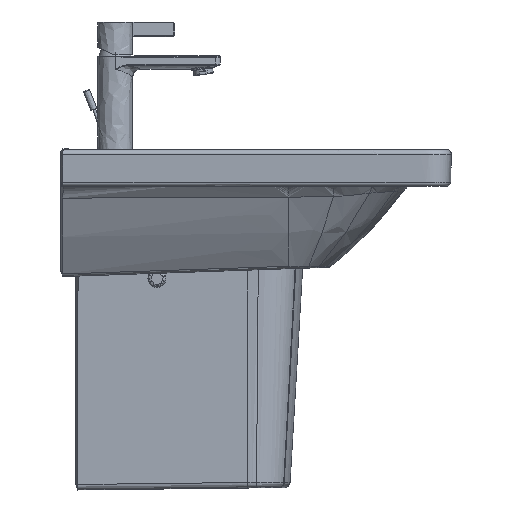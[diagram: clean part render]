
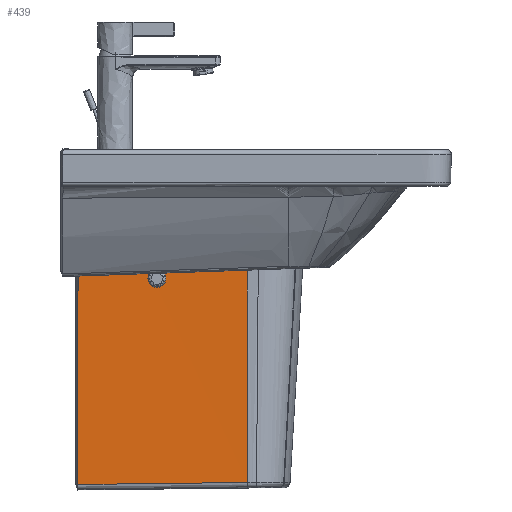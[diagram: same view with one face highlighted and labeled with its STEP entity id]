
A CAD part, left-side view. The second image highlights one B-rep face of the part: STEP entity #439.
In plain terms, the highlighted free-form (B-spline) face has degree [1, 5] with [2, 6] control points.
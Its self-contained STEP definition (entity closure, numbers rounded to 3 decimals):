
#57=FACE_BOUND('',#1791,.T.);
#439=ADVANCED_FACE('',(#1111,#57),#9985,.T.);
#1111=FACE_OUTER_BOUND('',#1790,.T.);
#1790=EDGE_LOOP('',(#3790,#3791,#3792,#3793));
#1791=EDGE_LOOP('',(#3794,#3795));
#3790=ORIENTED_EDGE('',*,*,#6176,.F.);
#3791=ORIENTED_EDGE('',*,*,#6130,.F.);
#3792=ORIENTED_EDGE('',*,*,#6175,.T.);
#3793=ORIENTED_EDGE('',*,*,#6199,.F.);
#3794=ORIENTED_EDGE('',*,*,#6232,.F.);
#3795=ORIENTED_EDGE('',*,*,#6229,.F.);
#6130=EDGE_CURVE('',#9027,#9028,#7975,.T.);
#6175=EDGE_CURVE('',#9027,#9062,#8017,.T.);
#6176=EDGE_CURVE('',#9028,#9063,#8018,.T.);
#6199=EDGE_CURVE('',#9063,#9062,#8041,.T.);
#6229=EDGE_CURVE('',#9065,#9064,#8071,.T.);
#6232=EDGE_CURVE('',#9064,#9065,#8074,.T.);
#7975=B_SPLINE_CURVE_WITH_KNOTS('',1,(#81495,#81496),.UNSPECIFIED.,.F.,
 .F.,(2,2),(0.,208.052),.UNSPECIFIED.);
#8017=B_SPLINE_CURVE_WITH_KNOTS('',5,(#81844,#81845,#81846,#81847,#81848,
#81849,#81850,#81851,#81852),.UNSPECIFIED.,.F.,.F.,(6,3,6),(82.052,
227.204,365.293),.UNSPECIFIED.);
#8018=B_SPLINE_CURVE_WITH_KNOTS('',1,(#81853,#81854),.UNSPECIFIED.,.F.,
 .F.,(2,2),(-290.099,-9.282),.UNSPECIFIED.);
#8041=B_SPLINE_CURVE_WITH_KNOTS('',4,(#81994,#81995,#81996,#81997,#81998),
 .UNSPECIFIED.,.F.,.F.,(5,5),(-104.033,104.033),
 .UNSPECIFIED.);
#8071=B_SPLINE_CURVE_WITH_KNOTS('',3,(#82299,#82300,#82301,#82302,#82303,
#82304,#82305,#82306,#82307,#82308,#82309,#82310,#82311,#82312,#82313,#82314,
#82315,#82316),.UNSPECIFIED.,.F.,.F.,(4,2,2,2,2,2,2,2,4),(-44.437,
-38.896,-33.354,-27.811,-22.264,
-16.676,-11.086,-5.539,0.),.UNSPECIFIED.);
#8074=B_SPLINE_CURVE_WITH_KNOTS('',3,(#82337,#82338,#82339,#82340,#82341,
#82342,#82343,#82344,#82345,#82346,#82347,#82348,#82349,#82350,#82351,#82352,
#82353,#82354),.UNSPECIFIED.,.F.,.F.,(4,2,2,2,2,2,2,2,4),(-44.437,
-38.892,-33.347,-27.782,-22.225,
-16.647,-11.062,-5.529,0.),.UNSPECIFIED.);
#9027=VERTEX_POINT('',#81222);
#9028=VERTEX_POINT('',#81223);
#9062=VERTEX_POINT('',#81257);
#9063=VERTEX_POINT('',#81258);
#9064=VERTEX_POINT('',#81259);
#9065=VERTEX_POINT('',#81260);
#9985=B_SPLINE_SURFACE_WITH_KNOTS('',1,5,((#79268,#79269,#79270,#79271,
#79272,#79273),(#79274,#79275,#79276,#79277,#79278,#79279)),
 .UNSPECIFIED.,.F.,.F.,.F.,(2,2),(6,6),(0.,290.099),(0.,211.052),
 .UNSPECIFIED.);
#79268=CARTESIAN_POINT('',(-76.214,10.657,-335.476));
#79269=CARTESIAN_POINT('',(-76.714,52.865,-335.476));
#79270=CARTESIAN_POINT('',(-77.214,95.072,-335.476));
#79271=CARTESIAN_POINT('',(-77.714,137.28,-335.476));
#79272=CARTESIAN_POINT('',(-78.214,179.487,-335.476));
#79273=CARTESIAN_POINT('',(-78.714,221.695,-335.476));
#79274=CARTESIAN_POINT('',(-83.863,10.567,-45.476));
#79275=CARTESIAN_POINT('',(-84.333,52.775,-45.476));
#79276=CARTESIAN_POINT('',(-84.803,94.982,-45.476));
#79277=CARTESIAN_POINT('',(-85.273,137.19,-45.476));
#79278=CARTESIAN_POINT('',(-85.743,179.398,-45.476));
#79279=CARTESIAN_POINT('',(-86.213,221.606,-45.476));
#81222=CARTESIAN_POINT('',(-86.179,218.606,-45.476));
#81223=CARTESIAN_POINT('',(-83.863,10.567,-45.476));
#81257=CARTESIAN_POINT('',(-78.855,218.693,-328.623));
#81258=CARTESIAN_POINT('',(-76.458,10.654,-326.197));
#81259=CARTESIAN_POINT('',(-84.429,131.695,-75.476));
#81260=CARTESIAN_POINT('',(-84.205,111.695,-75.476));
#81495=CARTESIAN_POINT('',(-86.179,218.606,-45.476));
#81496=CARTESIAN_POINT('',(-83.863,10.567,-45.476));
#81844=CARTESIAN_POINT('',(-86.179,218.606,-45.476));
#81845=CARTESIAN_POINT('',(-85.429,218.615,-74.497));
#81846=CARTESIAN_POINT('',(-84.678,218.624,-103.517));
#81847=CARTESIAN_POINT('',(-83.927,218.633,-132.538));
#81848=CARTESIAN_POINT('',(-82.463,218.65,-189.167));
#81849=CARTESIAN_POINT('',(-80.998,218.667,-245.797));
#81850=CARTESIAN_POINT('',(-80.284,218.676,-273.405));
#81851=CARTESIAN_POINT('',(-79.57,218.684,-301.014));
#81852=CARTESIAN_POINT('',(-78.855,218.693,-328.623));
#81853=CARTESIAN_POINT('',(-83.863,10.567,-45.476));
#81854=CARTESIAN_POINT('',(-76.458,10.654,-326.197));
#81994=CARTESIAN_POINT('',(-76.458,10.654,-326.197));
#81995=CARTESIAN_POINT('',(-77.057,62.664,-326.803));
#81996=CARTESIAN_POINT('',(-77.657,114.674,-327.41));
#81997=CARTESIAN_POINT('',(-78.256,166.683,-328.016));
#81998=CARTESIAN_POINT('',(-78.855,218.693,-328.623));
#82299=CARTESIAN_POINT('',(-84.205,111.695,-75.476));
#82300=CARTESIAN_POINT('',(-84.239,111.695,-74.184));
#82301=CARTESIAN_POINT('',(-84.275,111.947,-72.9));
#82302=CARTESIAN_POINT('',(-84.348,112.914,-70.521));
#82303=CARTESIAN_POINT('',(-84.385,113.629,-69.426));
#82304=CARTESIAN_POINT('',(-84.453,115.429,-67.576));
#82305=CARTESIAN_POINT('',(-84.485,116.514,-66.823));
#82306=CARTESIAN_POINT('',(-84.539,118.915,-65.781));
#82307=CARTESIAN_POINT('',(-84.561,120.224,-65.496));
#82308=CARTESIAN_POINT('',(-84.592,122.89,-65.458));
#82309=CARTESIAN_POINT('',(-84.6,124.222,-65.71));
#82310=CARTESIAN_POINT('',(-84.602,126.684,-66.708));
#82311=CARTESIAN_POINT('',(-84.595,127.815,-67.455));
#82312=CARTESIAN_POINT('',(-84.567,129.704,-69.343));
#82313=CARTESIAN_POINT('',(-84.546,130.445,-70.461));
#82314=CARTESIAN_POINT('',(-84.494,131.442,-72.885));
#82315=CARTESIAN_POINT('',(-84.463,131.695,-74.184));
#82316=CARTESIAN_POINT('',(-84.429,131.695,-75.476));
#82337=CARTESIAN_POINT('',(-84.429,131.695,-75.476));
#82338=CARTESIAN_POINT('',(-84.396,131.695,-76.768));
#82339=CARTESIAN_POINT('',(-84.359,131.442,-78.052));
#82340=CARTESIAN_POINT('',(-84.286,130.475,-80.431));
#82341=CARTESIAN_POINT('',(-84.25,129.76,-81.527));
#82342=CARTESIAN_POINT('',(-84.181,127.957,-83.379));
#82343=CARTESIAN_POINT('',(-84.149,126.871,-84.131));
#82344=CARTESIAN_POINT('',(-84.095,124.477,-85.169));
#82345=CARTESIAN_POINT('',(-84.073,123.17,-85.456));
#82346=CARTESIAN_POINT('',(-84.042,120.5,-85.494));
#82347=CARTESIAN_POINT('',(-84.034,119.167,-85.242));
#82348=CARTESIAN_POINT('',(-84.032,116.704,-84.243));
#82349=CARTESIAN_POINT('',(-84.039,115.572,-83.496));
#82350=CARTESIAN_POINT('',(-84.067,113.684,-81.607));
#82351=CARTESIAN_POINT('',(-84.088,112.944,-80.49));
#82352=CARTESIAN_POINT('',(-84.14,111.948,-78.067));
#82353=CARTESIAN_POINT('',(-84.171,111.695,-76.768));
#82354=CARTESIAN_POINT('',(-84.205,111.695,-75.476));
